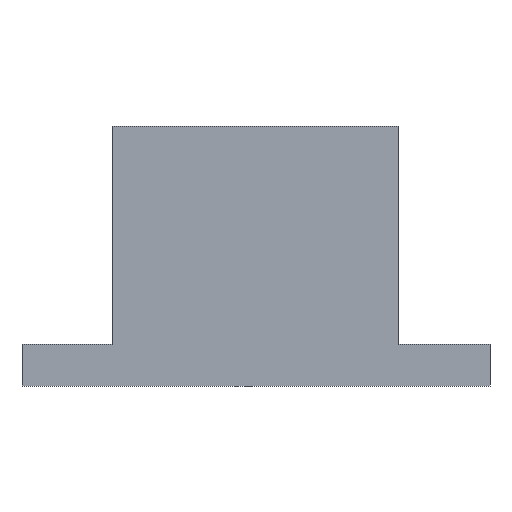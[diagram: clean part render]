
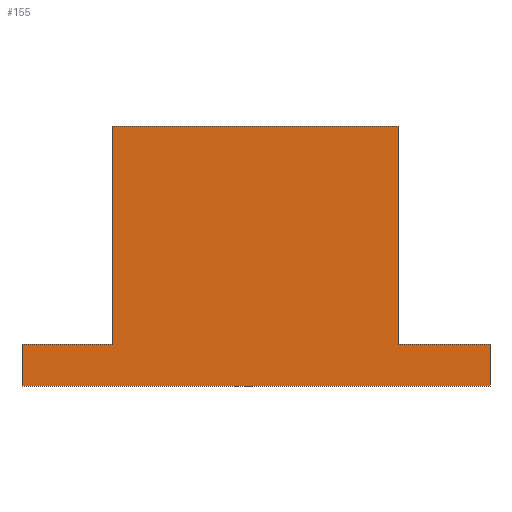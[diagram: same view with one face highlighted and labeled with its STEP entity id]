
A CAD part, front view. The second image highlights one B-rep face of the part: STEP entity #155.
In plain terms, the highlighted planar face has unit normal (0, -1, 0).
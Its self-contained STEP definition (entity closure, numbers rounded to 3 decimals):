
#39 = EDGE_CURVE('',#40,#42,#44,.T.);
#40 = VERTEX_POINT('',#41);
#41 = CARTESIAN_POINT('',(13.,-13.5,47.8));
#42 = VERTEX_POINT('',#43);
#43 = CARTESIAN_POINT('',(13.,-13.5,49.4));
#44 = SURFACE_CURVE('',#45,(#49,#61),.PCURVE_S1.);
#45 = LINE('',#46,#47);
#46 = CARTESIAN_POINT('',(13.,-13.5,47.8));
#47 = VECTOR('',#48,1.);
#48 = DIRECTION('',(0.,0.,1.));
#49 = PCURVE('',#50,#55);
#50 = PLANE('',#51);
#51 = AXIS2_PLACEMENT_3D('',#52,#53,#54);
#52 = CARTESIAN_POINT('',(13.,-13.5,47.8));
#53 = DIRECTION('',(1.,0.,0.));
#54 = DIRECTION('',(0.,0.,1.));
#55 = DEFINITIONAL_REPRESENTATION('',(#56),#60);
#56 = LINE('',#57,#58);
#57 = CARTESIAN_POINT('',(0.,0.));
#58 = VECTOR('',#59,1.);
#59 = DIRECTION('',(1.,0.));
#60 = ( GEOMETRIC_REPRESENTATION_CONTEXT(2) 
PARAMETRIC_REPRESENTATION_CONTEXT() REPRESENTATION_CONTEXT('2D SPACE',''
  ) );
#61 = PCURVE('',#62,#67);
#62 = PLANE('',#63);
#63 = AXIS2_PLACEMENT_3D('',#64,#65,#66);
#64 = CARTESIAN_POINT('',(13.,-13.5,47.8));
#65 = DIRECTION('',(0.,1.,0.));
#66 = DIRECTION('',(0.,0.,1.));
#67 = DEFINITIONAL_REPRESENTATION('',(#68),#72);
#68 = LINE('',#69,#70);
#69 = CARTESIAN_POINT('',(0.,0.));
#70 = VECTOR('',#71,1.);
#71 = DIRECTION('',(1.,0.));
#72 = ( GEOMETRIC_REPRESENTATION_CONTEXT(2) 
PARAMETRIC_REPRESENTATION_CONTEXT() REPRESENTATION_CONTEXT('2D SPACE',''
  ) );
#90 = PLANE('',#91);
#91 = AXIS2_PLACEMENT_3D('',#92,#93,#94);
#92 = CARTESIAN_POINT('',(13.,-13.5,47.8));
#93 = DIRECTION('',(0.,0.,1.));
#94 = DIRECTION('',(1.,0.,0.));
#144 = PLANE('',#145);
#145 = AXIS2_PLACEMENT_3D('',#146,#147,#148);
#146 = CARTESIAN_POINT('',(13.,-13.5,49.4));
#147 = DIRECTION('',(0.,0.,1.));
#148 = DIRECTION('',(1.,0.,0.));
#155 = ADVANCED_FACE('',(#156),#62,.F.);
#156 = FACE_BOUND('',#157,.F.);
#157 = EDGE_LOOP('',(#158,#181,#182,#205,#233,#261,#289,#312));
#158 = ORIENTED_EDGE('',*,*,#159,.F.);
#159 = EDGE_CURVE('',#40,#160,#162,.T.);
#160 = VERTEX_POINT('',#161);
#161 = CARTESIAN_POINT('',(31.,-13.5,47.8));
#162 = SURFACE_CURVE('',#163,(#167,#174),.PCURVE_S1.);
#163 = LINE('',#164,#165);
#164 = CARTESIAN_POINT('',(13.,-13.5,47.8));
#165 = VECTOR('',#166,1.);
#166 = DIRECTION('',(1.,0.,0.));
#167 = PCURVE('',#62,#168);
#168 = DEFINITIONAL_REPRESENTATION('',(#169),#173);
#169 = LINE('',#170,#171);
#170 = CARTESIAN_POINT('',(0.,0.));
#171 = VECTOR('',#172,1.);
#172 = DIRECTION('',(0.,1.));
#173 = ( GEOMETRIC_REPRESENTATION_CONTEXT(2) 
PARAMETRIC_REPRESENTATION_CONTEXT() REPRESENTATION_CONTEXT('2D SPACE',''
  ) );
#174 = PCURVE('',#90,#175);
#175 = DEFINITIONAL_REPRESENTATION('',(#176),#180);
#176 = LINE('',#177,#178);
#177 = CARTESIAN_POINT('',(0.,0.));
#178 = VECTOR('',#179,1.);
#179 = DIRECTION('',(1.,0.));
#180 = ( GEOMETRIC_REPRESENTATION_CONTEXT(2) 
PARAMETRIC_REPRESENTATION_CONTEXT() REPRESENTATION_CONTEXT('2D SPACE',''
  ) );
#181 = ORIENTED_EDGE('',*,*,#39,.T.);
#182 = ORIENTED_EDGE('',*,*,#183,.T.);
#183 = EDGE_CURVE('',#42,#184,#186,.T.);
#184 = VERTEX_POINT('',#185);
#185 = CARTESIAN_POINT('',(16.5,-13.5,49.4));
#186 = SURFACE_CURVE('',#187,(#191,#198),.PCURVE_S1.);
#187 = LINE('',#188,#189);
#188 = CARTESIAN_POINT('',(13.,-13.5,49.4));
#189 = VECTOR('',#190,1.);
#190 = DIRECTION('',(1.,0.,0.));
#191 = PCURVE('',#62,#192);
#192 = DEFINITIONAL_REPRESENTATION('',(#193),#197);
#193 = LINE('',#194,#195);
#194 = CARTESIAN_POINT('',(1.6,0.));
#195 = VECTOR('',#196,1.);
#196 = DIRECTION('',(0.,1.));
#197 = ( GEOMETRIC_REPRESENTATION_CONTEXT(2) 
PARAMETRIC_REPRESENTATION_CONTEXT() REPRESENTATION_CONTEXT('2D SPACE',''
  ) );
#198 = PCURVE('',#144,#199);
#199 = DEFINITIONAL_REPRESENTATION('',(#200),#204);
#200 = LINE('',#201,#202);
#201 = CARTESIAN_POINT('',(0.,0.));
#202 = VECTOR('',#203,1.);
#203 = DIRECTION('',(1.,0.));
#204 = ( GEOMETRIC_REPRESENTATION_CONTEXT(2) 
PARAMETRIC_REPRESENTATION_CONTEXT() REPRESENTATION_CONTEXT('2D SPACE',''
  ) );
#205 = ORIENTED_EDGE('',*,*,#206,.T.);
#206 = EDGE_CURVE('',#184,#207,#209,.T.);
#207 = VERTEX_POINT('',#208);
#208 = CARTESIAN_POINT('',(16.5,-13.5,57.8));
#209 = SURFACE_CURVE('',#210,(#214,#221),.PCURVE_S1.);
#210 = LINE('',#211,#212);
#211 = CARTESIAN_POINT('',(16.5,-13.5,49.4));
#212 = VECTOR('',#213,1.);
#213 = DIRECTION('',(0.,0.,1.));
#214 = PCURVE('',#62,#215);
#215 = DEFINITIONAL_REPRESENTATION('',(#216),#220);
#216 = LINE('',#217,#218);
#217 = CARTESIAN_POINT('',(1.6,3.5));
#218 = VECTOR('',#219,1.);
#219 = DIRECTION('',(1.,0.));
#220 = ( GEOMETRIC_REPRESENTATION_CONTEXT(2) 
PARAMETRIC_REPRESENTATION_CONTEXT() REPRESENTATION_CONTEXT('2D SPACE',''
  ) );
#221 = PCURVE('',#222,#227);
#222 = PLANE('',#223);
#223 = AXIS2_PLACEMENT_3D('',#224,#225,#226);
#224 = CARTESIAN_POINT('',(16.5,-13.5,49.4));
#225 = DIRECTION('',(1.,0.,0.));
#226 = DIRECTION('',(0.,0.,1.));
#227 = DEFINITIONAL_REPRESENTATION('',(#228),#232);
#228 = LINE('',#229,#230);
#229 = CARTESIAN_POINT('',(0.,0.));
#230 = VECTOR('',#231,1.);
#231 = DIRECTION('',(1.,0.));
#232 = ( GEOMETRIC_REPRESENTATION_CONTEXT(2) 
PARAMETRIC_REPRESENTATION_CONTEXT() REPRESENTATION_CONTEXT('2D SPACE',''
  ) );
#233 = ORIENTED_EDGE('',*,*,#234,.T.);
#234 = EDGE_CURVE('',#207,#235,#237,.T.);
#235 = VERTEX_POINT('',#236);
#236 = CARTESIAN_POINT('',(27.5,-13.5,57.8));
#237 = SURFACE_CURVE('',#238,(#242,#249),.PCURVE_S1.);
#238 = LINE('',#239,#240);
#239 = CARTESIAN_POINT('',(16.5,-13.5,57.8));
#240 = VECTOR('',#241,1.);
#241 = DIRECTION('',(1.,0.,0.));
#242 = PCURVE('',#62,#243);
#243 = DEFINITIONAL_REPRESENTATION('',(#244),#248);
#244 = LINE('',#245,#246);
#245 = CARTESIAN_POINT('',(10.,3.5));
#246 = VECTOR('',#247,1.);
#247 = DIRECTION('',(0.,1.));
#248 = ( GEOMETRIC_REPRESENTATION_CONTEXT(2) 
PARAMETRIC_REPRESENTATION_CONTEXT() REPRESENTATION_CONTEXT('2D SPACE',''
  ) );
#249 = PCURVE('',#250,#255);
#250 = PLANE('',#251);
#251 = AXIS2_PLACEMENT_3D('',#252,#253,#254);
#252 = CARTESIAN_POINT('',(16.5,-13.5,57.8));
#253 = DIRECTION('',(0.,0.,1.));
#254 = DIRECTION('',(1.,0.,0.));
#255 = DEFINITIONAL_REPRESENTATION('',(#256),#260);
#256 = LINE('',#257,#258);
#257 = CARTESIAN_POINT('',(0.,0.));
#258 = VECTOR('',#259,1.);
#259 = DIRECTION('',(1.,0.));
#260 = ( GEOMETRIC_REPRESENTATION_CONTEXT(2) 
PARAMETRIC_REPRESENTATION_CONTEXT() REPRESENTATION_CONTEXT('2D SPACE',''
  ) );
#261 = ORIENTED_EDGE('',*,*,#262,.F.);
#262 = EDGE_CURVE('',#263,#235,#265,.T.);
#263 = VERTEX_POINT('',#264);
#264 = CARTESIAN_POINT('',(27.5,-13.5,49.4));
#265 = SURFACE_CURVE('',#266,(#270,#277),.PCURVE_S1.);
#266 = LINE('',#267,#268);
#267 = CARTESIAN_POINT('',(27.5,-13.5,49.4));
#268 = VECTOR('',#269,1.);
#269 = DIRECTION('',(0.,0.,1.));
#270 = PCURVE('',#62,#271);
#271 = DEFINITIONAL_REPRESENTATION('',(#272),#276);
#272 = LINE('',#273,#274);
#273 = CARTESIAN_POINT('',(1.6,14.5));
#274 = VECTOR('',#275,1.);
#275 = DIRECTION('',(1.,0.));
#276 = ( GEOMETRIC_REPRESENTATION_CONTEXT(2) 
PARAMETRIC_REPRESENTATION_CONTEXT() REPRESENTATION_CONTEXT('2D SPACE',''
  ) );
#277 = PCURVE('',#278,#283);
#278 = PLANE('',#279);
#279 = AXIS2_PLACEMENT_3D('',#280,#281,#282);
#280 = CARTESIAN_POINT('',(27.5,-13.5,49.4));
#281 = DIRECTION('',(1.,0.,0.));
#282 = DIRECTION('',(0.,0.,1.));
#283 = DEFINITIONAL_REPRESENTATION('',(#284),#288);
#284 = LINE('',#285,#286);
#285 = CARTESIAN_POINT('',(0.,0.));
#286 = VECTOR('',#287,1.);
#287 = DIRECTION('',(1.,0.));
#288 = ( GEOMETRIC_REPRESENTATION_CONTEXT(2) 
PARAMETRIC_REPRESENTATION_CONTEXT() REPRESENTATION_CONTEXT('2D SPACE',''
  ) );
#289 = ORIENTED_EDGE('',*,*,#290,.T.);
#290 = EDGE_CURVE('',#263,#291,#293,.T.);
#291 = VERTEX_POINT('',#292);
#292 = CARTESIAN_POINT('',(31.,-13.5,49.4));
#293 = SURFACE_CURVE('',#294,(#298,#305),.PCURVE_S1.);
#294 = LINE('',#295,#296);
#295 = CARTESIAN_POINT('',(13.,-13.5,49.4));
#296 = VECTOR('',#297,1.);
#297 = DIRECTION('',(1.,0.,0.));
#298 = PCURVE('',#62,#299);
#299 = DEFINITIONAL_REPRESENTATION('',(#300),#304);
#300 = LINE('',#301,#302);
#301 = CARTESIAN_POINT('',(1.6,0.));
#302 = VECTOR('',#303,1.);
#303 = DIRECTION('',(0.,1.));
#304 = ( GEOMETRIC_REPRESENTATION_CONTEXT(2) 
PARAMETRIC_REPRESENTATION_CONTEXT() REPRESENTATION_CONTEXT('2D SPACE',''
  ) );
#305 = PCURVE('',#144,#306);
#306 = DEFINITIONAL_REPRESENTATION('',(#307),#311);
#307 = LINE('',#308,#309);
#308 = CARTESIAN_POINT('',(0.,0.));
#309 = VECTOR('',#310,1.);
#310 = DIRECTION('',(1.,0.));
#311 = ( GEOMETRIC_REPRESENTATION_CONTEXT(2) 
PARAMETRIC_REPRESENTATION_CONTEXT() REPRESENTATION_CONTEXT('2D SPACE',''
  ) );
#312 = ORIENTED_EDGE('',*,*,#313,.F.);
#313 = EDGE_CURVE('',#160,#291,#314,.T.);
#314 = SURFACE_CURVE('',#315,(#319,#326),.PCURVE_S1.);
#315 = LINE('',#316,#317);
#316 = CARTESIAN_POINT('',(31.,-13.5,47.8));
#317 = VECTOR('',#318,1.);
#318 = DIRECTION('',(0.,0.,1.));
#319 = PCURVE('',#62,#320);
#320 = DEFINITIONAL_REPRESENTATION('',(#321),#325);
#321 = LINE('',#322,#323);
#322 = CARTESIAN_POINT('',(0.,18.));
#323 = VECTOR('',#324,1.);
#324 = DIRECTION('',(1.,0.));
#325 = ( GEOMETRIC_REPRESENTATION_CONTEXT(2) 
PARAMETRIC_REPRESENTATION_CONTEXT() REPRESENTATION_CONTEXT('2D SPACE',''
  ) );
#326 = PCURVE('',#327,#332);
#327 = PLANE('',#328);
#328 = AXIS2_PLACEMENT_3D('',#329,#330,#331);
#329 = CARTESIAN_POINT('',(31.,-13.5,47.8));
#330 = DIRECTION('',(1.,0.,0.));
#331 = DIRECTION('',(0.,0.,1.));
#332 = DEFINITIONAL_REPRESENTATION('',(#333),#337);
#333 = LINE('',#334,#335);
#334 = CARTESIAN_POINT('',(0.,0.));
#335 = VECTOR('',#336,1.);
#336 = DIRECTION('',(1.,0.));
#337 = ( GEOMETRIC_REPRESENTATION_CONTEXT(2) 
PARAMETRIC_REPRESENTATION_CONTEXT() REPRESENTATION_CONTEXT('2D SPACE',''
  ) );
